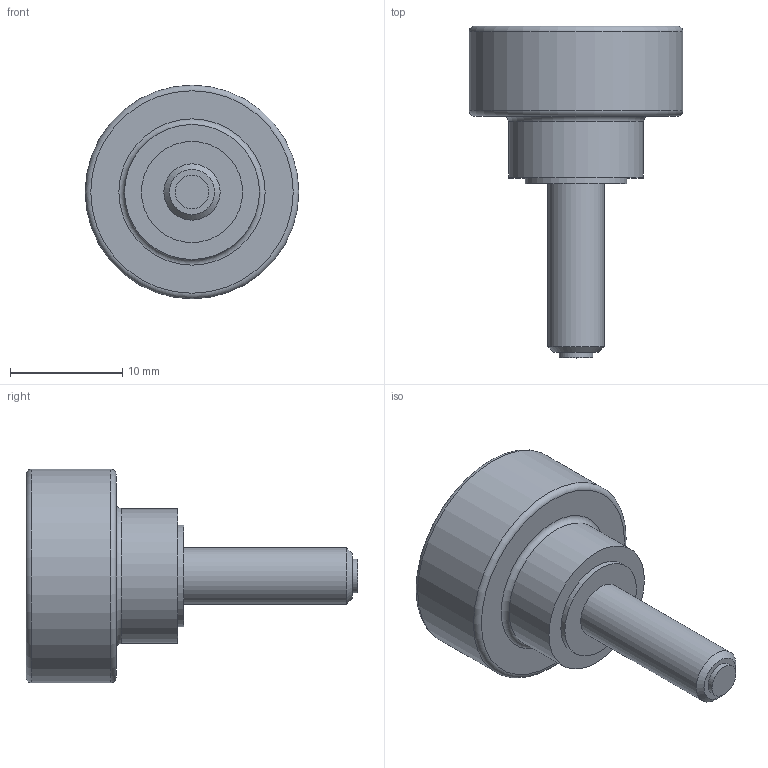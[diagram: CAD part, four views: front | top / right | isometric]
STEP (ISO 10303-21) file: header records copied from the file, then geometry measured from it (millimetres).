
FILE_DESCRIPTION( ( 'STEP AP203' ), '1' );
FILE_NAME( 'C:/Temp/Ganter_Step_05_03_2020/data/2_2/gn_421_10/Hollow knurled knob, with tip GN 421.10-M5-15-MS.stp', '2020-03-05T12:25:30', ( 'License CC BY-ND 4.0' ), ( 'CADENAS' ), ' ', 'PARTsolutions', ' ' );
FILE_SCHEMA( ( 'CONFIG_CONTROL_DESIGN' ) );
Length unit declared in the file: millimetre
Products named in the file (1): _Hollow knurled knob, with tip GN 421.10-M5-15-MS
Bounding box: 19 x 29.5 x 19 mm (x, y, z)
Volume: 2208.8 mm3; surface area: 1769.3 mm2
Topology: 1 solids, 1 shells, 19 faces, 30 edges, 19 vertices
Faces by surface type: plane 8, cylinder 7, torus 3, cone 1
Full cylindrical faces by diameter (mm): 3 x1, 5 x1, 8 x1, 9 x1, 12 x1, 16 x1, 19 x1
Entity records: 418 total; most frequent: DIRECTION 76, CARTESIAN_POINT 56, AXIS2_PLACEMENT_3D 38, EDGE_LOOP 36, ORIENTED_EDGE 36, FACE_OUTER_BOUND 29, ADVANCED_FACE 19, EDGE_CURVE 18
